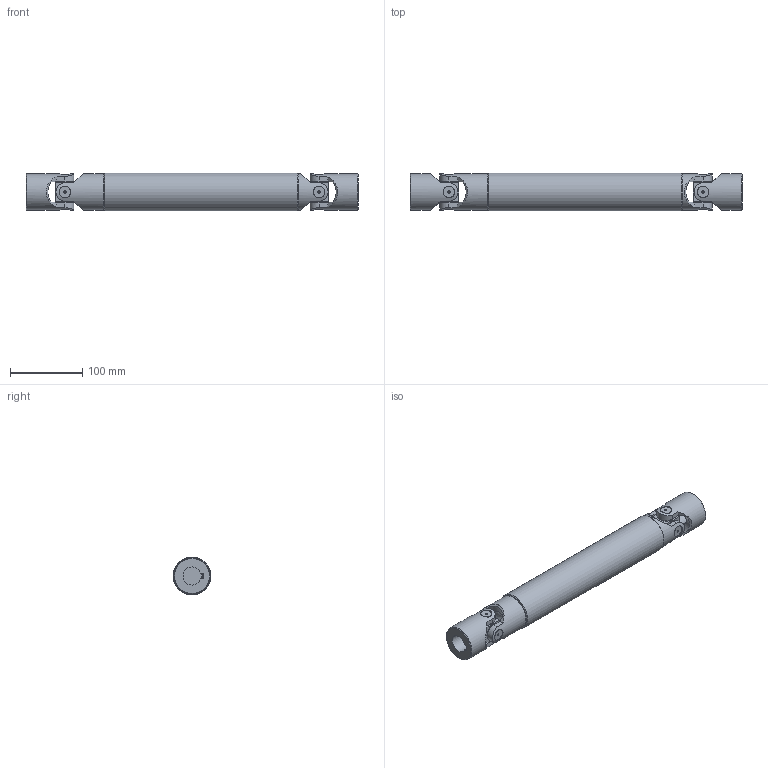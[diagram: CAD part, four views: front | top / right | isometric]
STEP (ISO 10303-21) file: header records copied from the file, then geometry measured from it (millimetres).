
FILE_DESCRIPTION(/* description */ (''),/* implementation_level */ '2;1');
FILE_NAME(/* name */ '\\SRV2016\Societa\Stefano\Disegni 3D\00Catalogo 3D\03Trasmissioni standard GA\5GA29\5GA29_SG0A2529.stp',/* time_stamp */ '2022-03-15T16:39:18+01:00',/* author */ ('acquisti'),/* organization */ (''),/* preprocessor_version */ 'ST-DEVELOPER v15.6',/* originating_system */ 'Autodesk Inventor 2015',/* authorisation */ '');
FILE_SCHEMA (('AUTOMOTIVE_DESIGN { 1 0 10303 214 3 1 1 }'));
Length unit declared in the file: millimetre
Products named in the file (5): 5G MOC; 5G SFE; 5GA29 LAI; 5GA29 LCI; 5GA29_SG0A2529
Assembly tree (6 placements, depth 2):
  5GA29_SG0A2529
    5G MOC  x2
    5G SFE  x2
    5GA29 LAI
    5GA29 LCI
Bounding box: 460 x 52.5 x 52.5 mm (x, y, z)
Volume: 629110.3 mm3; surface area: 171771 mm2
Topology: 6 solids, 6 shells, 204 faces, 513 edges, 345 vertices
Faces by surface type: plane 108, cylinder 68, cone 24, torus 4
Full cylindrical faces by diameter (mm): 3 x8, 16 x8, 23 x8, 28 x1, 32.4 x1, 45 x1, 50 x4, 52.5 x1
Entity records: 5370 total; most frequent: CARTESIAN_POINT 1605, DIRECTION 751, ORIENTED_EDGE 742, EDGE_CURVE 371, AXIS2_PLACEMENT_3D 299, VERTEX_POINT 269, EDGE_LOOP 210, FACE_OUTER_BOUND 158
